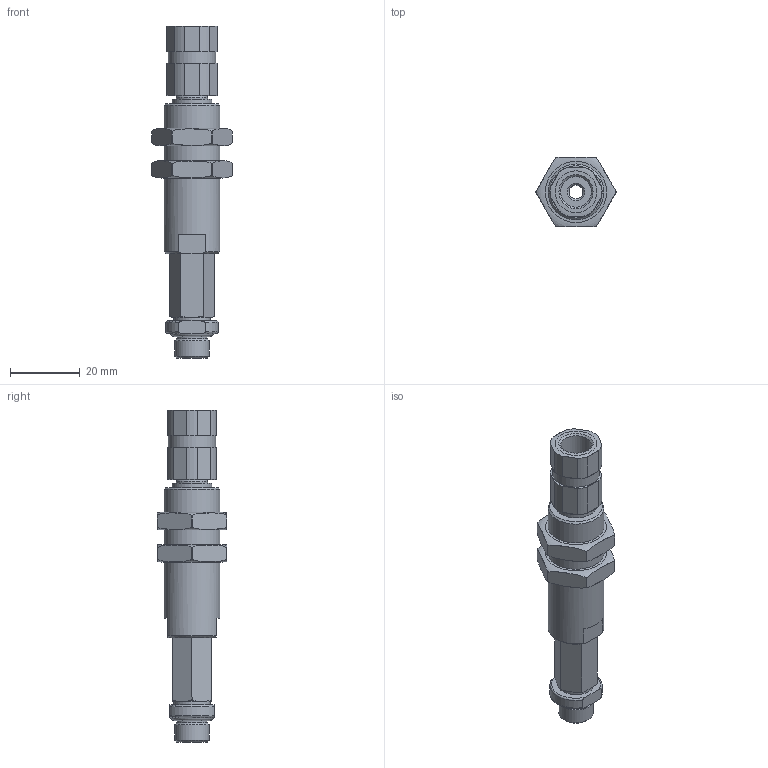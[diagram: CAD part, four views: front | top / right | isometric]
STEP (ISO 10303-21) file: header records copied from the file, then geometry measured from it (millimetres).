
FILE_DESCRIPTION( ( 'Unknown' ), '1' );
FILE_NAME( 'C:/Documents and Settings/Owner/官帕 拳搁/诀公楷遏_(Level Spring Stroke)/L1820TN.stp', 'Unknown', ( 'Unknown' ), ( 'Unknown' ), 'PSStep 10.0', 'Unknown', ' ' );
FILE_SCHEMA( ( 'AUTOMOTIVE_DESIGN { 1 0 10303 214 1 1 1 1 }' ) );
Length unit declared in the file: millimetre
Products named in the file (1): 1
Bounding box: 23 x 20 x 95.1 mm (x, y, z)
Surface area: 7050.4 mm2 (no closed solid volume)
Topology: 0 solids, 110 shells, 110 faces, 515 edges, 487 vertices
Faces by surface type: plane 50, cylinder 37, revolution 9, cone 8, torus 6
Full cylindrical faces by diameter (mm): 4 x1, 8.5 x1, 8.8 x1, 9 x1, 9.8 x1, 10.5 x1, 11.381 x1, 13.5 x1, 16 x3
Entity records: 7933 total; most frequent: CARTESIAN_POINT 3387, DIRECTION 753, ORIENTED_EDGE 478, EDGE_CURVE 478, VERTEX_POINT 478, AXIS2_PLACEMENT_3D 296, CIRCLE 194, FACE_BOUND 152
